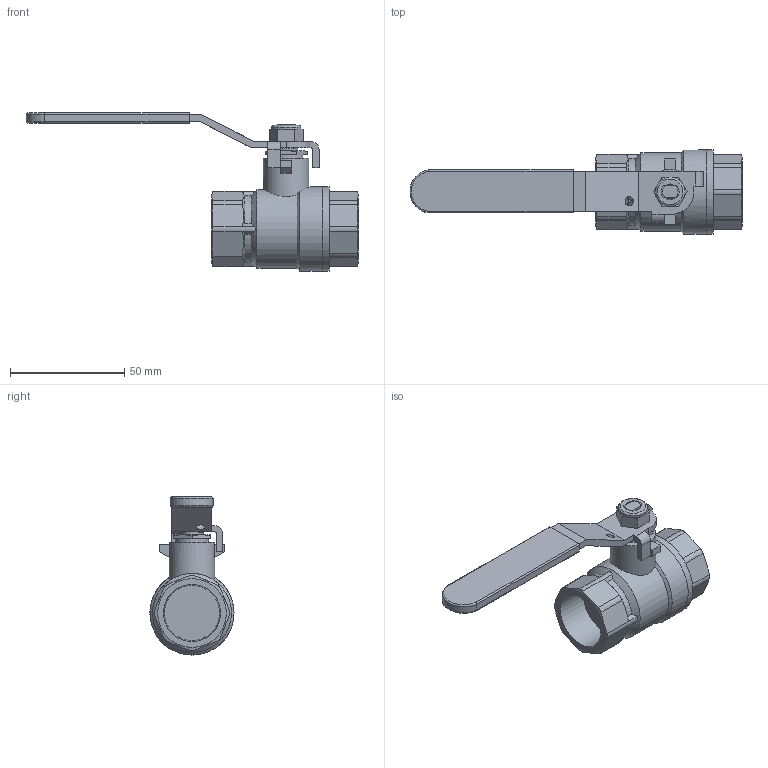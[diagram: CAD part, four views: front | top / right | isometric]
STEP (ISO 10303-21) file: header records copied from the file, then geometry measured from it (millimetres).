
FILE_DESCRIPTION((' '),'2;1');
FILE_NAME('N:\Technical Support\Private\Jomar Valve CAD\Ball Valves\Brass\.75 JF-100T (100-104)FusionCopy.stp.step','2016-04-27T16:42:09',(' '),(' '),' ','ACIS',' ');
FILE_SCHEMA(('CONFIG_CONTROL_DESIGN'));
Length unit declared in the file: inch
Products named in the file (8): N:\Technical Support\Private\Jomar Valve CAD\Ball Valves\Brass\.75 JF-100T (100-104)FusionCopy.stp.step; Body1; Body2; Body3; Body4; Body5; Body6; Body7
Assembly tree (7 placements, depth 2):
  N:\Technical Support\Private\Jomar Valve CAD\Ball Valves\Brass\.75 JF-100T (100-104)FusionCopy.stp.step
    Body1
    Body2
    Body3
    Body4
    Body5
    Body6
    Body7
Bounding box: 145.39 x 36.83 x 69.23 mm (x, y, z)
Volume: 62304.3 mm3; surface area: 24763.4 mm2
Topology: 7 solids, 7 shells, 162 faces, 404 edges, 262 vertices
Faces by surface type: plane 89, cylinder 42, cone 15, bspline 13, torus 3
Full cylindrical faces by diameter (mm): 4.064 x1, 6.858 x1, 9.906 x1, 10.16 x1, 12.751 x1, 14.478 x1, 19.939 x1, 34.595 x1, 36.83 x2
Entity records: 5909 total; most frequent: CARTESIAN_POINT 1230, ORIENTED_EDGE 754, DIRECTION 710, EDGE_CURVE 377, AXIS2_PLACEMENT_3D 252, VERTEX_POINT 251, VECTOR 206, LINE 206
